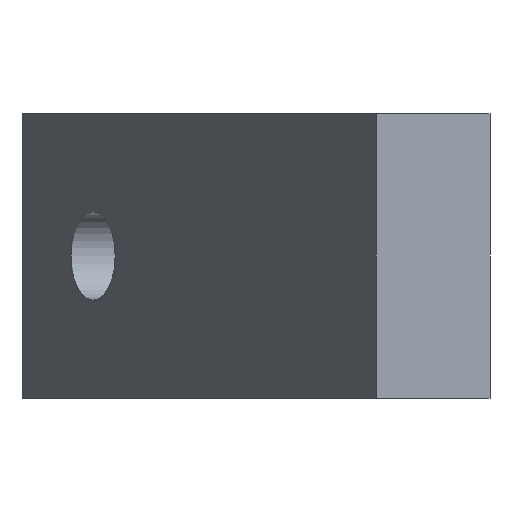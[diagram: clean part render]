
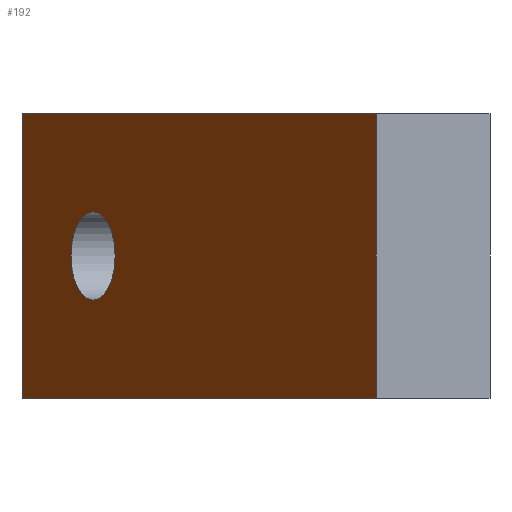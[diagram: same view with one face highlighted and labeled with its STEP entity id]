
A CAD part, front view. The second image highlights one B-rep face of the part: STEP entity #192.
In plain terms, the highlighted planar face has unit normal (-0.866, -0.5, 0).
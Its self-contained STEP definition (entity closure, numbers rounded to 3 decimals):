
#15=FACE_BOUND('',#43,.T.);
#21=PLANE('',#227);
#32=FACE_OUTER_BOUND('',#42,.T.);
#42=EDGE_LOOP('',(#164,#165,#166,#167));
#43=EDGE_LOOP('',(#168));
#54=LINE('',#309,#74);
#62=LINE('',#324,#82);
#63=LINE('',#327,#83);
#64=LINE('',#328,#84);
#74=VECTOR('',#255,10.);
#82=VECTOR('',#269,10.);
#83=VECTOR('',#272,10.);
#84=VECTOR('',#273,10.);
#92=CIRCLE('',#222,3.1);
#97=VERTEX_POINT('',#295);
#102=VERTEX_POINT('',#306);
#103=VERTEX_POINT('',#308);
#107=VERTEX_POINT('',#322);
#108=VERTEX_POINT('',#326);
#116=EDGE_CURVE('',#97,#97,#92,.T.);
#121=EDGE_CURVE('',#102,#103,#54,.T.);
#129=EDGE_CURVE('',#102,#107,#62,.T.);
#130=EDGE_CURVE('',#108,#107,#63,.T.);
#131=EDGE_CURVE('',#103,#108,#64,.T.);
#164=ORIENTED_EDGE('',*,*,#129,.T.);
#165=ORIENTED_EDGE('',*,*,#130,.F.);
#166=ORIENTED_EDGE('',*,*,#131,.F.);
#167=ORIENTED_EDGE('',*,*,#121,.F.);
#168=ORIENTED_EDGE('',*,*,#116,.T.);
#192=ADVANCED_FACE('',(#32,#15),#21,.T.);
#222=AXIS2_PLACEMENT_3D('',#297,#247,#248);
#227=AXIS2_PLACEMENT_3D('',#325,#270,#271);
#247=DIRECTION('center_axis',(0.866,0.5,0.));
#248=DIRECTION('ref_axis',(0.,0.,-1.));
#255=DIRECTION('',(-0.5,0.866,0.));
#269=DIRECTION('',(0.,0.,1.));
#270=DIRECTION('center_axis',(-0.866,-0.5,0.));
#271=DIRECTION('ref_axis',(0.5,-0.866,0.));
#272=DIRECTION('',(0.5,-0.866,0.));
#273=DIRECTION('',(0.,0.,1.));
#295=CARTESIAN_POINT('',(-23.928,36.373,3.1));
#297=CARTESIAN_POINT('Origin',(-23.928,36.373,0.));
#306=CARTESIAN_POINT('',(-4.,1.856,-10.));
#308=CARTESIAN_POINT('',(-28.928,45.033,-10.));
#309=CARTESIAN_POINT('',(-28.928,45.033,-10.));
#322=CARTESIAN_POINT('',(-4.,1.856,10.));
#324=CARTESIAN_POINT('',(-4.,1.856,0.));
#325=CARTESIAN_POINT('Origin',(-28.928,45.033,0.));
#326=CARTESIAN_POINT('',(-28.928,45.033,10.));
#327=CARTESIAN_POINT('',(-28.928,45.033,10.));
#328=CARTESIAN_POINT('',(-28.928,45.033,0.));
